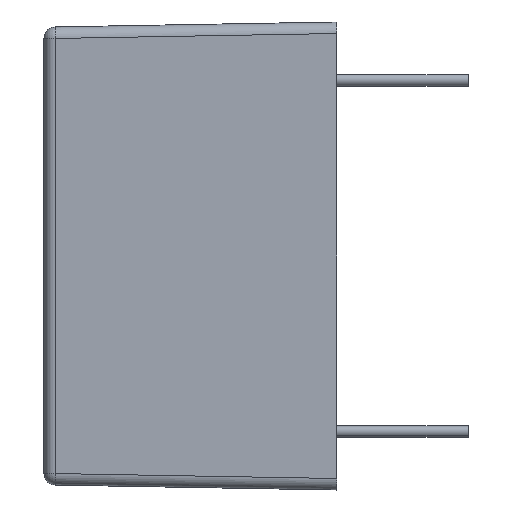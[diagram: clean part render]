
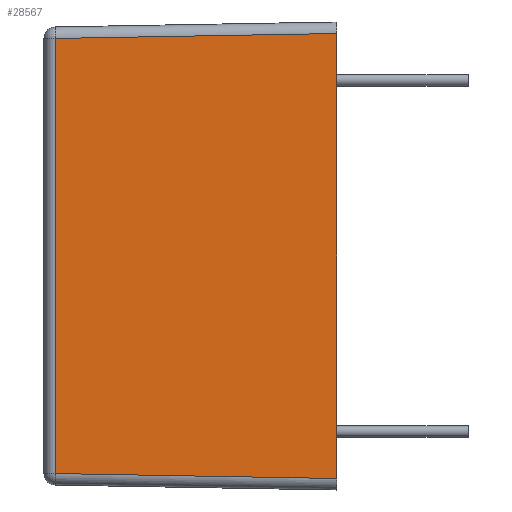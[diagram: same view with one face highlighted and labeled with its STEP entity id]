
A CAD part, left-side view. The second image highlights one B-rep face of the part: STEP entity #28567.
In plain terms, the highlighted planar face has unit normal (-1, 0.018, 0).
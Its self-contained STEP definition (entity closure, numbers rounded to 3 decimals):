
#1240 = ORIENTED_EDGE ( 'NONE', *, *, #29718, .T. ) ;
#1649 = DIRECTION ( 'NONE',  ( -0.017, -1., -0.017 ) ) ;
#3767 = VECTOR ( 'NONE', #1649, 1000. ) ;
#4486 = CARTESIAN_POINT ( 'NONE',  ( -13.062, 11.322, -9.437 ) ) ;
#5475 = DIRECTION ( 'NONE',  ( -1., 0.017, 0. ) ) ;
#6433 = DIRECTION ( 'NONE',  ( 0.017, 1., -0.017 ) ) ;
#7702 = CARTESIAN_POINT ( 'NONE',  ( -13.269, -0.541, -9.644 ) ) ;
#8294 = EDGE_CURVE ( 'NONE', #19329, #9004, #15205, .T. ) ;
#8435 = CARTESIAN_POINT ( 'NONE',  ( -13.062, 11.322, 9.437 ) ) ;
#9004 = VERTEX_POINT ( 'NONE', #25042 ) ;
#9911 = DIRECTION ( 'NONE',  ( 0., 0., -1. ) ) ;
#10115 = PLANE ( 'NONE',  #17545 ) ;
#10858 = DIRECTION ( 'NONE',  ( 0., 0., -1. ) ) ;
#11360 = ORIENTED_EDGE ( 'NONE', *, *, #24540, .T. ) ;
#11961 = VERTEX_POINT ( 'NONE', #4486 ) ;
#12231 = LINE ( 'NONE', #21690, #25483 ) ;
#14872 = VERTEX_POINT ( 'NONE', #8435 ) ;
#15205 = LINE ( 'NONE', #25111, #29182 ) ;
#15503 = EDGE_CURVE ( 'NONE', #14872, #11961, #12231, .T. ) ;
#16856 = CARTESIAN_POINT ( 'NONE',  ( -13.275, -0.886, 9.65 ) ) ;
#17039 = ORIENTED_EDGE ( 'NONE', *, *, #8294, .F. ) ;
#17545 = AXIS2_PLACEMENT_3D ( 'NONE', #28863, #5475, #26541 ) ;
#19329 = VERTEX_POINT ( 'NONE', #16856 ) ;
#21690 = CARTESIAN_POINT ( 'NONE',  ( -13.062, 11.322, -9.428 ) ) ;
#21893 = FACE_OUTER_BOUND ( 'NONE', #24822, .T. ) ;
#22463 = ORIENTED_EDGE ( 'NONE', *, *, #15503, .T. ) ;
#23313 = CARTESIAN_POINT ( 'NONE',  ( -13.275, -0.895, 9.65 ) ) ;
#24540 = EDGE_CURVE ( 'NONE', #11961, #9004, #28917, .T. ) ;
#24822 = EDGE_LOOP ( 'NONE', ( #1240, #22463, #11360, #17039 ) ) ;
#25042 = CARTESIAN_POINT ( 'NONE',  ( -13.275, -0.886, -9.65 ) ) ;
#25111 = CARTESIAN_POINT ( 'NONE',  ( -13.275, -0.886, 10.15 ) ) ;
#25483 = VECTOR ( 'NONE', #9911, 1000. ) ;
#26541 = DIRECTION ( 'NONE',  ( 0.017, 1., 0. ) ) ;
#28567 = ADVANCED_FACE ( 'NONE', ( #21893 ), #10115, .T. ) ;
#28863 = CARTESIAN_POINT ( 'NONE',  ( -13.275, -0.886, 10.15 ) ) ;
#28917 = LINE ( 'NONE', #7702, #3767 ) ;
#28952 = VECTOR ( 'NONE', #6433, 1000. ) ;
#29061 = LINE ( 'NONE', #23313, #28952 ) ;
#29182 = VECTOR ( 'NONE', #10858, 1000. ) ;
#29718 = EDGE_CURVE ( 'NONE', #19329, #14872, #29061, .T. ) ;
